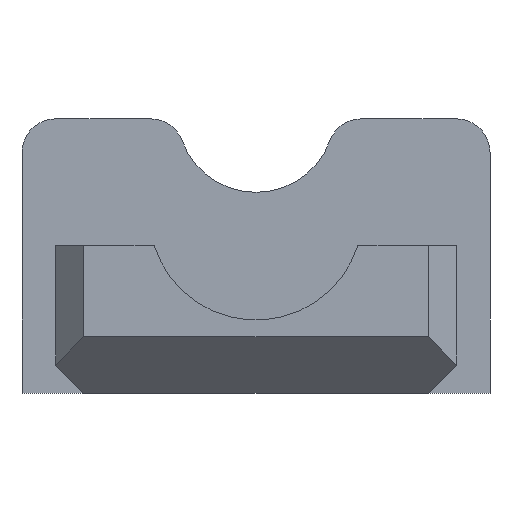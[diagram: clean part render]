
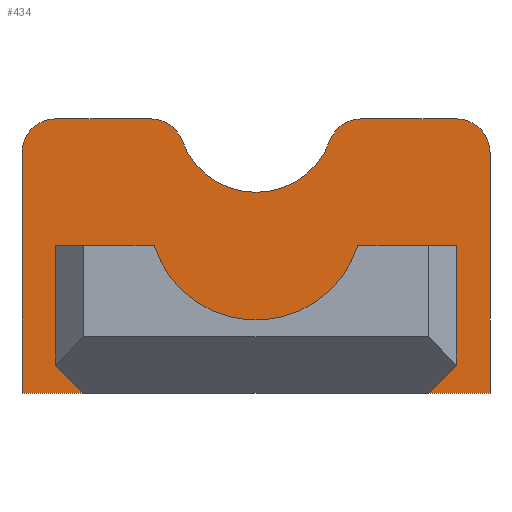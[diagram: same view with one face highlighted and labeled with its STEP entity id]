
A CAD part, left-side view. The second image highlights one B-rep face of the part: STEP entity #434.
In plain terms, the highlighted planar face has unit normal (-1, 0, 0).
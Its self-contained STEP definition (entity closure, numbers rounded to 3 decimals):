
#15=FACE_BOUND('',#71,.T.);
#23=PLANE('',#482);
#46=FACE_OUTER_BOUND('',#70,.T.);
#70=EDGE_LOOP('',(#342,#343,#344,#345,#346,#347,#348,#349,#350,#351));
#71=EDGE_LOOP('',(#352,#353,#354,#355,#356,#357));
#85=LINE('',#631,#134);
#90=LINE('',#646,#139);
#95=LINE('',#655,#144);
#97=LINE('',#658,#146);
#101=LINE('',#680,#150);
#106=LINE('',#690,#155);
#108=LINE('',#694,#157);
#111=LINE('',#699,#160);
#112=LINE('',#701,#161);
#113=LINE('',#704,#162);
#134=VECTOR('',#508,10.);
#139=VECTOR('',#521,10.);
#144=VECTOR('',#528,10.);
#146=VECTOR('',#532,10.);
#150=VECTOR('',#556,10.);
#155=VECTOR('',#563,10.);
#157=VECTOR('',#567,10.);
#160=VECTOR('',#572,10.);
#161=VECTOR('',#573,10.);
#162=VECTOR('',#576,10.);
#181=CIRCLE('',#461,3.);
#184=CIRCLE('',#466,3.);
#186=CIRCLE('',#472,3.);
#187=CIRCLE('',#474,7.);
#190=CIRCLE('',#478,3.);
#191=CIRCLE('',#483,9.5);
#193=VERTEX_POINT('',#621);
#194=VERTEX_POINT('',#622);
#197=VERTEX_POINT('',#630);
#201=VERTEX_POINT('',#639);
#202=VERTEX_POINT('',#641);
#203=VERTEX_POINT('',#645);
#206=VERTEX_POINT('',#653);
#208=VERTEX_POINT('',#662);
#209=VERTEX_POINT('',#666);
#212=VERTEX_POINT('',#674);
#213=VERTEX_POINT('',#678);
#214=VERTEX_POINT('',#679);
#218=VERTEX_POINT('',#689);
#219=VERTEX_POINT('',#693);
#221=VERTEX_POINT('',#700);
#222=VERTEX_POINT('',#702);
#233=EDGE_CURVE('',#193,#194,#181,.T.);
#237=EDGE_CURVE('',#197,#194,#85,.T.);
#242=EDGE_CURVE('',#201,#202,#184,.T.);
#244=EDGE_CURVE('',#203,#202,#90,.T.);
#249=EDGE_CURVE('',#193,#206,#95,.T.);
#251=EDGE_CURVE('',#203,#206,#97,.F.);
#253=EDGE_CURVE('',#197,#208,#186,.T.);
#255=EDGE_CURVE('',#209,#208,#187,.T.);
#259=EDGE_CURVE('',#209,#212,#190,.T.);
#261=EDGE_CURVE('',#213,#214,#101,.T.);
#266=EDGE_CURVE('',#218,#213,#106,.T.);
#268=EDGE_CURVE('',#219,#218,#108,.T.);
#271=EDGE_CURVE('',#201,#212,#111,.T.);
#272=EDGE_CURVE('',#214,#221,#112,.T.);
#273=EDGE_CURVE('',#221,#222,#191,.T.);
#274=EDGE_CURVE('',#222,#219,#113,.T.);
#342=ORIENTED_EDGE('',*,*,#251,.F.);
#343=ORIENTED_EDGE('',*,*,#244,.T.);
#344=ORIENTED_EDGE('',*,*,#242,.F.);
#345=ORIENTED_EDGE('',*,*,#271,.T.);
#346=ORIENTED_EDGE('',*,*,#259,.F.);
#347=ORIENTED_EDGE('',*,*,#255,.T.);
#348=ORIENTED_EDGE('',*,*,#253,.F.);
#349=ORIENTED_EDGE('',*,*,#237,.T.);
#350=ORIENTED_EDGE('',*,*,#233,.F.);
#351=ORIENTED_EDGE('',*,*,#249,.T.);
#352=ORIENTED_EDGE('',*,*,#266,.T.);
#353=ORIENTED_EDGE('',*,*,#261,.T.);
#354=ORIENTED_EDGE('',*,*,#272,.T.);
#355=ORIENTED_EDGE('',*,*,#273,.T.);
#356=ORIENTED_EDGE('',*,*,#274,.T.);
#357=ORIENTED_EDGE('',*,*,#268,.T.);
#434=ADVANCED_FACE('',(#46,#15),#23,.F.);
#461=AXIS2_PLACEMENT_3D('',#623,#500,#501);
#466=AXIS2_PLACEMENT_3D('',#642,#516,#517);
#472=AXIS2_PLACEMENT_3D('',#663,#537,#538);
#474=AXIS2_PLACEMENT_3D('',#667,#542,#543);
#478=AXIS2_PLACEMENT_3D('',#675,#551,#552);
#482=AXIS2_PLACEMENT_3D('',#698,#570,#571);
#483=AXIS2_PLACEMENT_3D('',#703,#574,#575);
#500=DIRECTION('center_axis',(1.,0.,0.));
#501=DIRECTION('ref_axis',(0.,0.707,0.707));
#508=DIRECTION('',(0.,1.,0.));
#516=DIRECTION('center_axis',(1.,0.,0.));
#517=DIRECTION('ref_axis',(0.,-0.707,0.707));
#521=DIRECTION('',(0.,0.,1.));
#528=DIRECTION('',(0.,0.,-1.));
#532=DIRECTION('',(0.,-1.,0.));
#537=DIRECTION('center_axis',(1.,0.,0.));
#538=DIRECTION('ref_axis',(0.,-0.572,0.82));
#542=DIRECTION('center_axis',(1.,0.,0.));
#543=DIRECTION('ref_axis',(0.,1.,0.));
#551=DIRECTION('center_axis',(1.,0.,0.));
#552=DIRECTION('ref_axis',(0.,0.572,0.82));
#556=DIRECTION('',(0.,0.,1.));
#563=DIRECTION('',(0.,1.,0.));
#567=DIRECTION('',(0.,0.,-1.));
#570=DIRECTION('center_axis',(1.,0.,0.));
#571=DIRECTION('ref_axis',(0.,1.,0.));
#572=DIRECTION('',(0.,1.,0.));
#573=DIRECTION('',(0.,-1.,0.));
#574=DIRECTION('center_axis',(-1.,0.,0.));
#575=DIRECTION('ref_axis',(0.,1.,0.));
#576=DIRECTION('',(0.,-1.,0.));
#621=CARTESIAN_POINT('',(96.15,20.8,-180.76));
#622=CARTESIAN_POINT('',(96.15,17.8,-177.76));
#623=CARTESIAN_POINT('Origin',(96.15,17.8,-180.76));
#630=CARTESIAN_POINT('',(96.15,9.382,-177.76));
#631=CARTESIAN_POINT('',(96.15,-20.8,-177.76));
#639=CARTESIAN_POINT('',(96.15,-17.8,-177.76));
#641=CARTESIAN_POINT('',(96.15,-20.8,-180.76));
#642=CARTESIAN_POINT('Origin',(96.15,-17.8,-180.76));
#645=CARTESIAN_POINT('',(96.15,-20.8,-202.15));
#646=CARTESIAN_POINT('',(96.15,-20.8,-183.851));
#653=CARTESIAN_POINT('',(96.15,20.8,-202.15));
#655=CARTESIAN_POINT('',(96.15,20.8,-196.033));
#658=CARTESIAN_POINT('',(96.15,-10.4,-202.15));
#662=CARTESIAN_POINT('',(96.15,6.567,-179.722));
#663=CARTESIAN_POINT('Origin',(96.15,9.382,-180.76));
#666=CARTESIAN_POINT('',(96.15,-6.567,-179.722));
#667=CARTESIAN_POINT('Origin',(96.15,0.,-177.298));
#674=CARTESIAN_POINT('',(96.15,-9.382,-177.76));
#675=CARTESIAN_POINT('Origin',(96.15,-9.382,-180.76));
#678=CARTESIAN_POINT('',(96.15,15.3,-202.15));
#679=CARTESIAN_POINT('',(96.15,15.3,-189.));
#680=CARTESIAN_POINT('',(96.15,15.3,-196.046));
#689=CARTESIAN_POINT('',(96.15,-15.3,-202.15));
#690=CARTESIAN_POINT('',(96.15,0.,-202.15));
#693=CARTESIAN_POINT('',(96.15,-15.3,-189.));
#694=CARTESIAN_POINT('',(96.15,-15.3,-189.471));
#698=CARTESIAN_POINT('Origin',(96.15,-15.3,-190.));
#699=CARTESIAN_POINT('',(96.15,-20.8,-177.76));
#700=CARTESIAN_POINT('',(96.15,9.062,-189.));
#701=CARTESIAN_POINT('',(96.15,0.,-189.));
#702=CARTESIAN_POINT('',(96.15,-9.062,-189.));
#703=CARTESIAN_POINT('Origin',(96.15,0.,-186.15));
#704=CARTESIAN_POINT('',(96.15,0.,-189.));
